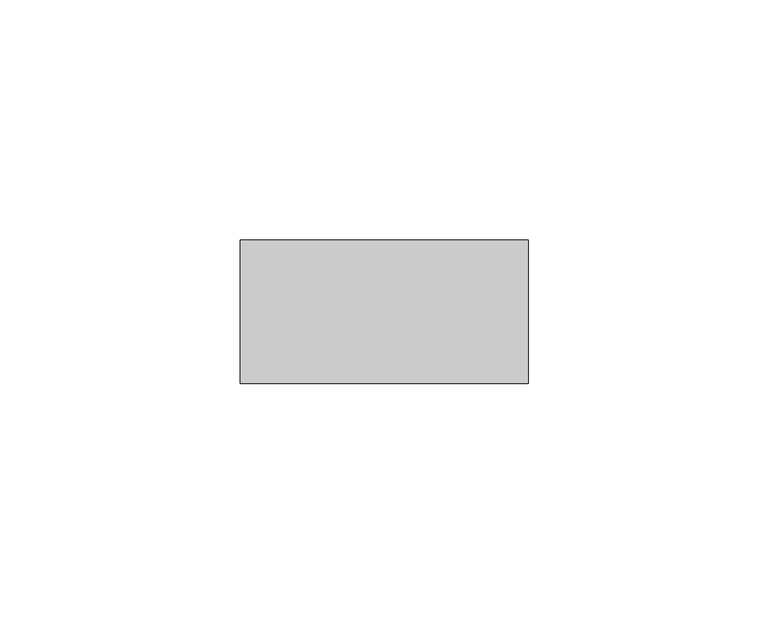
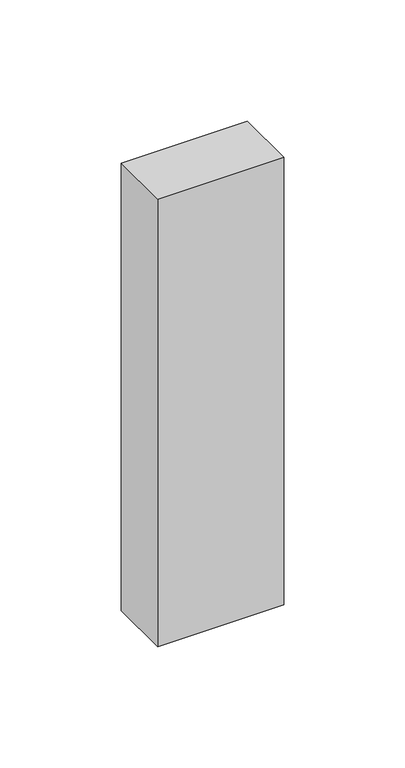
"""IFC4 building model written with IfcOpenShell, lengths in millimetres: member geometry, Прямоугольный импост : Квадрат 30 мм."""

from ifc_helpers import new_model, si_unit, frame, origin, place, context, project, spatial, polyline, outline, extrude, source, transform, mapped, element, save


def member_45257c7c(model_context):
    return source(origin(), model_context, "Body", "SweptSolid", [
        extrude(outline(polyline([(30.0, 15.0), (30.0, -15.0), (-30.0, -15.0), (-30.0, 15.0), (30.0, 15.0)])), frame((0.0, 0.0, -225.25), z_axis=(0.0, 0.0, 1.0), x_axis=(1.0, 0.0, 0.0)), (0.0, 0.0, 1.0), 225.25),
    ])


if __name__ == "__main__":
    model = new_model("IFC4")
    model_context = context("Model", 3, world=origin())
    ifc_project = project(units=[si_unit("LENGTHUNIT", "METRE", prefix="MILLI")], contexts=[model_context])
    site = spatial("IfcSite", under=ifc_project)
    building = spatial("IfcBuilding", under=site)
    placement = place(None, origin())
    member_shape = member_45257c7c(model_context)
    element("IfcMember", 1, ObjectType="Прямоугольный импост : Квадрат 30 мм", at=placement, inside=building, context=model_context, shape_type="MappedRepresentation", body=[
        mapped(member_shape, transform((0.0, 0.0, 0.0), x_axis=(1.0, 0.0, 0.0), y_axis=(0.0, 1.0, 0.0), z_axis=(0.0, 0.0, 1.0))),
    ])
    save(model, "model.ifc")
